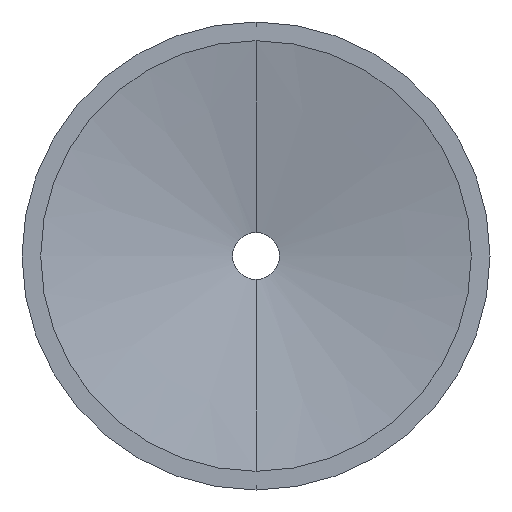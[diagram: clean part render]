
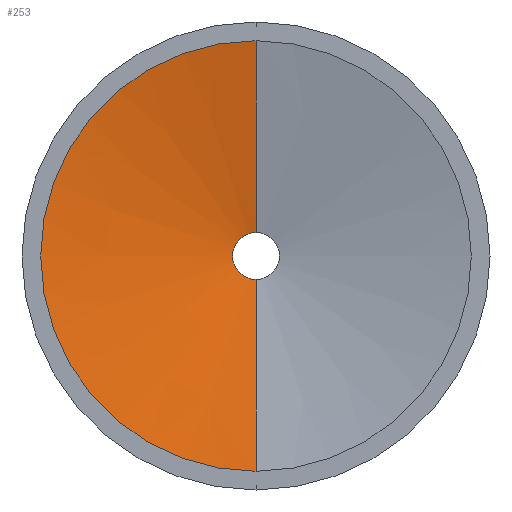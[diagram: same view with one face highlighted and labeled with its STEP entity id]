
A CAD part, front view. The second image highlights one B-rep face of the part: STEP entity #253.
In plain terms, the highlighted conical face has half-angle 79 degrees and reference radius 1 mm.
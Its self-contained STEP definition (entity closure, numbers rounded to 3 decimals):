
#5 = CARTESIAN_POINT ( 'NONE',  ( 0., 1.594, 0. ) ) ;
#24 = VERTEX_POINT ( 'NONE', #454 ) ;
#50 = AXIS2_PLACEMENT_3D ( 'NONE', #5, #500, #403 ) ;
#63 = CARTESIAN_POINT ( 'NONE',  ( 0., 1.594, 1. ) ) ;
#68 = VERTEX_POINT ( 'NONE', #63 ) ;
#70 = CIRCLE ( 'NONE', #50, 1. ) ;
#76 = ORIENTED_EDGE ( 'NONE', *, *, #345, .F. ) ;
#77 = CARTESIAN_POINT ( 'NONE',  ( 0., 1.594, -1. ) ) ;
#102 = AXIS2_PLACEMENT_3D ( 'NONE', #400, #315, #413 ) ;
#106 = FACE_OUTER_BOUND ( 'NONE', #539, .T. ) ;
#145 = VERTEX_POINT ( 'NONE', #250 ) ;
#171 = DIRECTION ( 'NONE',  ( 0., -0.191, 0.982 ) ) ;
#207 = EDGE_CURVE ( 'NONE', #24, #145, #545, .T. ) ;
#247 = CARTESIAN_POINT ( 'NONE',  ( 0., 0., 0. ) ) ;
#249 = VERTEX_POINT ( 'NONE', #361 ) ;
#250 = CARTESIAN_POINT ( 'NONE',  ( 0., 0., -9.2 ) ) ;
#253 = ADVANCED_FACE ( 'NONE', ( #106 ), #462, .F. ) ;
#268 = CIRCLE ( 'NONE', #322, 9.2 ) ;
#293 = CARTESIAN_POINT ( 'NONE',  ( 0., 1.594, 1. ) ) ;
#312 = ORIENTED_EDGE ( 'NONE', *, *, #207, .F. ) ;
#315 = DIRECTION ( 'NONE',  ( 0., -1., 0. ) ) ;
#322 = AXIS2_PLACEMENT_3D ( 'NONE', #247, #331, #519 ) ;
#331 = DIRECTION ( 'NONE',  ( 0., 1., 0. ) ) ;
#334 = ORIENTED_EDGE ( 'NONE', *, *, #587, .F. ) ;
#341 = VECTOR ( 'NONE', #511, 1000. ) ;
#345 = EDGE_CURVE ( 'NONE', #145, #249, #268, .T. ) ;
#361 = CARTESIAN_POINT ( 'NONE',  ( 0., 0., 9.2 ) ) ;
#400 = CARTESIAN_POINT ( 'NONE',  ( 0., 1.594, 0. ) ) ;
#403 = DIRECTION ( 'NONE',  ( 0., 0., -1. ) ) ;
#405 = ORIENTED_EDGE ( 'NONE', *, *, #554, .T. ) ;
#410 = VECTOR ( 'NONE', #171, 1000. ) ;
#413 = DIRECTION ( 'NONE',  ( 0., 0., -1. ) ) ;
#454 = CARTESIAN_POINT ( 'NONE',  ( 0., 1.594, -1. ) ) ;
#462 = CONICAL_SURFACE ( 'NONE', #102, 1., 1.379 ) ;
#500 = DIRECTION ( 'NONE',  ( 0., -1., 0. ) ) ;
#511 = DIRECTION ( 'NONE',  ( 0., -0.191, -0.982 ) ) ;
#519 = DIRECTION ( 'NONE',  ( 0., 0., -1. ) ) ;
#534 = LINE ( 'NONE', #293, #410 ) ;
#539 = EDGE_LOOP ( 'NONE', ( #334, #405, #76, #312 ) ) ;
#545 = LINE ( 'NONE', #77, #341 ) ;
#554 = EDGE_CURVE ( 'NONE', #68, #249, #534, .T. ) ;
#587 = EDGE_CURVE ( 'NONE', #68, #24, #70, .T. ) ;
